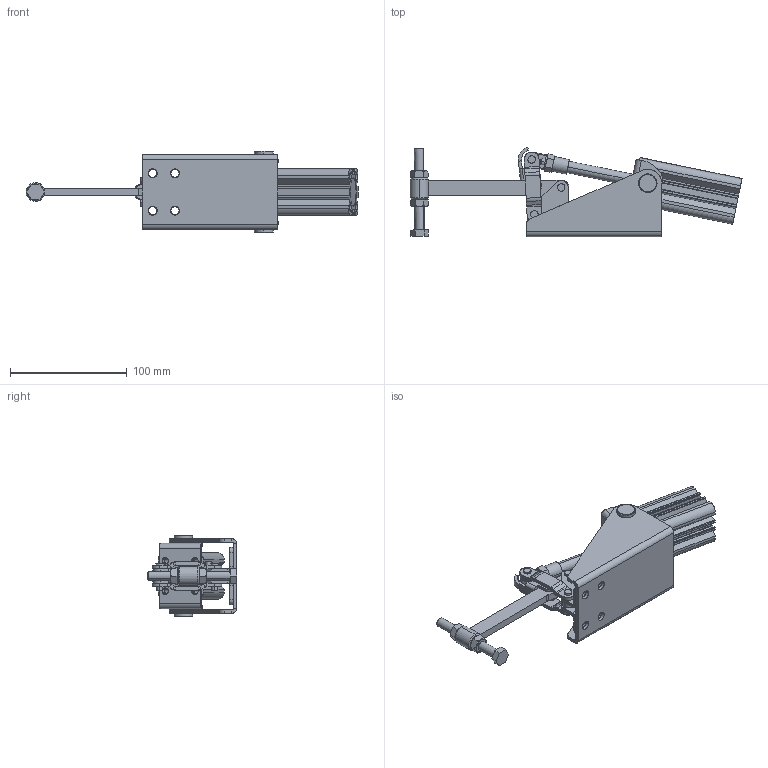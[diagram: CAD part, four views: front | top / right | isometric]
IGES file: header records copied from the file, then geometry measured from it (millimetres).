
Start section: SolidWorks IGES file using analytic representation for surfaces
Global section: file name: C:\Projetos\Grampos\KF-017 P\KF-017 DS P\KF-017 DS P.IGS; native system: SolidWorks 2015; preprocessor: SolidWorks 2015; author: Ricardo; date: 161215.090840; units: millimetre
Bounding box: 284.18 x 76.66 x 70 mm (x, y, z)
Surface area: 111401 mm2 (no closed solid volume)
Topology: 0 solids, 0 shells, 711 faces, 10548 edges, 10538 vertices
Faces by surface type: revolution 403, bspline 308
